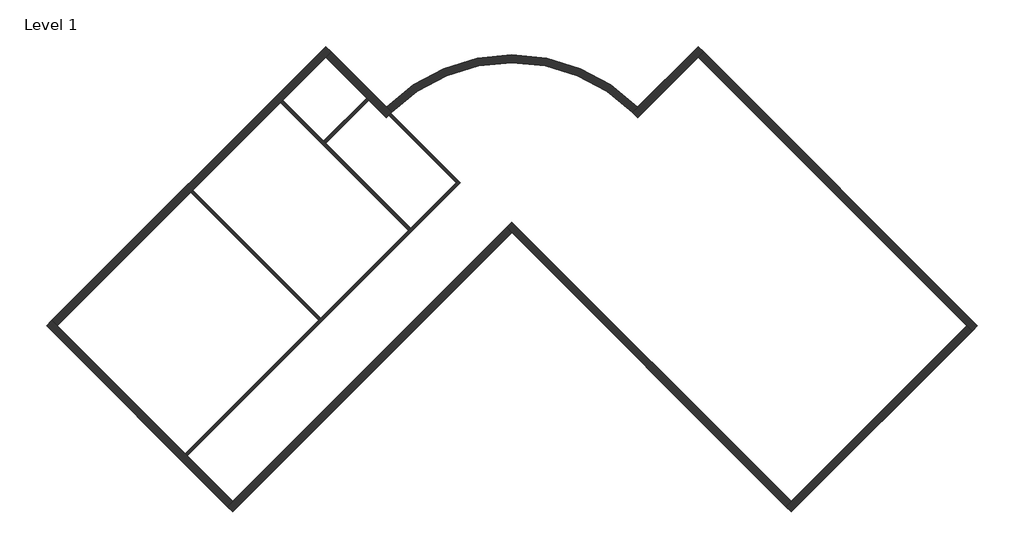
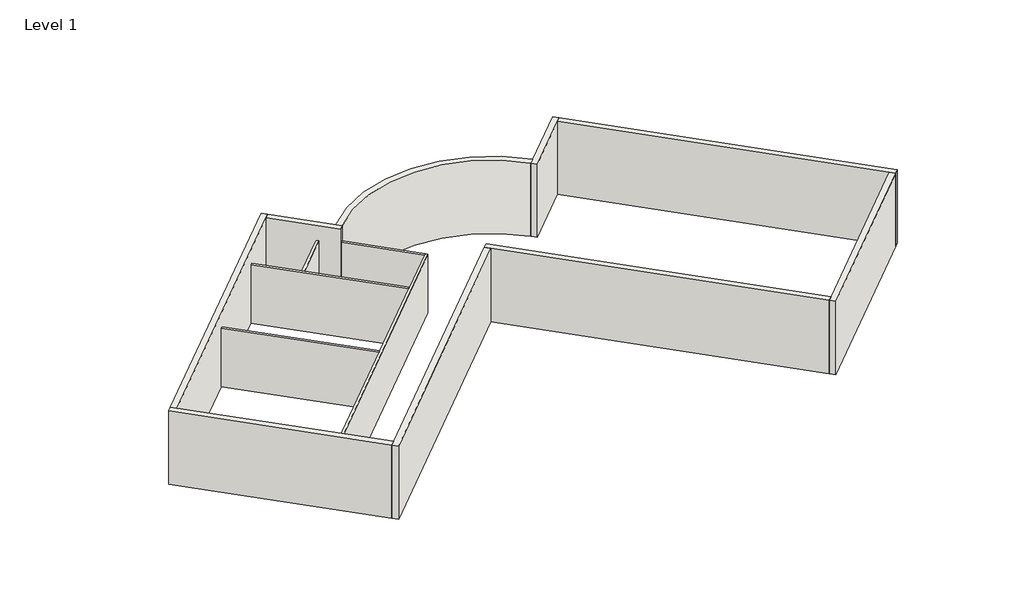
# One storey: 14 walls.
"""IFC4 building model written with IfcOpenShell, lengths in millimetres."""

from ifc_helpers import new_model, si_unit, point, frame, frame_2d, origin, origin_with_axes, place, context, project, spatial, polyline, circle_curve, trimmed, segment, composite_curve, outline, extrude, faceted_brep, element, save
from ifc_brep_helpers import plane_surface, revolved_surface, advanced_brep

model = new_model("IFC4")

# Units and contexts
model_context = context("Model", 3, world=origin())
ifc_project = project(units=[si_unit("LENGTHUNIT", "METRE", prefix="MILLI")], contexts=[model_context])

# Site, building, storey
site = spatial("IfcSite", under=ifc_project)
building = spatial("IfcBuilding", under=site)
storey = spatial("IfcBuildingStorey", under=building, Name="Level 1", Elevation=0.0)

# Walls
placement = place(None, origin())
element("IfcWall", 1, ObjectType="Exterior - Brick on Mtl. Stud", at=placement, inside=storey, context=model_context, shape_type="AdvancedBrep", body=[
    advanced_brep(
    [(4212.7441701, 7313.6674352, 0.0), (7019.8001803, 10120.7234455, 0.0), (7267.2875537, 10368.2108189, 0.0), (7267.2875537, 10368.2108189, 4572.0), (7019.8001803, 10120.7234455, 4572.0), (4212.7441701, 7313.6674352, 4572.0), (3970.7557398, 7566.6537518, 0.0), (3970.7557398, 7566.6537518, 4572.0), (4218.2431133, 7814.1411252, 4572.0), (7019.8001803, 10615.6981923, 4572.0), (7019.8001803, 10615.6981923, 0.0), (4218.2431133, 7814.1411252, 0.0)],
    [
        (0, 1),
        (1, 2),
        (2, 3),
        (3, 4),
        (4, 5),
        (5, 0),
        (6, 7),
        (7, 8),
        (8, 9),
        (9, 10),
        (10, 11),
        (11, 6),
        (0, 6, circle_curve(frame((-1601.2456959, 1994.6523161, 0.0), z_axis=(0.0, 0.0, 1.0), x_axis=(1.0, 0.0, 0.0)), 7880.0)),
        (10, 2),
        (3, 9),
        (7, 5, circle_curve(frame((-1601.2456959, 1994.6523161, 4572.0), z_axis=(0.0, 0.0, -1.0), x_axis=(1.0, 0.0, 0.0)), 7880.0)),
    ],
    [
        plane_surface(frame((4250.0629184, 7350.9861836, 0.0), z_axis=(0.7071067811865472, -0.7071067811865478, 0.0), x_axis=(0.7071067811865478, 0.7071067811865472, 0.0))),
        plane_surface(frame((4002.575545, 7598.473557, 0.0), z_axis=(-0.7071067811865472, 0.7071067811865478, 0.0), x_axis=(-0.7071067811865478, -0.7071067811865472, 0.0))),
        plane_surface(frame((4340.6424361, 7441.5657013, 0.0), z_axis=(0.0, 0.0, -1.0), x_axis=(-0.7071067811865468, 0.7071067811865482, 0.0))),
        plane_surface(frame((7143.543867, 10244.4671322, 4572.0), z_axis=(0.0, 0.0, 1.0), x_axis=(-0.707106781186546, 0.7071067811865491, 0.0))),
        plane_surface(frame((7019.8001803, 10615.6981923, 0.0), z_axis=(0.7071067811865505, 0.7071067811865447, 0.0), x_axis=(-0.7071067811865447, 0.7071067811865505, 0.0))),
        revolved_surface(polyline([(6278.7543041, 1994.6523161, 0.0), (6278.7543041, 1994.6523161, 4572.0)]), (-1601.2456959, 1994.6523161, 0.0), (0.0, 0.0, -1.0)),
    ],
    [
        (0, [[1, 2, 3, 4, 5, 6]]),
        (1, [[7, 8, 9, 10, 11, 12]]),
        (2, [[-2, -1, 13, -12, -11, 14]]),
        (3, [[-5, -4, 15, -9, -8, 16]]),
        (4, [[-3, -14, -10, -15]]),
        (5, [[-6, -16, -7, -13]]),
    ],
),
])
element("IfcWall", 2, ObjectType="Exterior - Brick on Mtl. Stud", at=placement, inside=storey, context=model_context, shape_type="Brep", body=[
    faceted_brep([(7019.8001803, 10120.7234455, 0.0), (19456.3942478, -2315.870622, 0.0), (19703.8816212, -2563.3579955, 0.0), (19703.8816212, -2563.3579955, 4572.0), (19456.3942478, -2315.870622, 4572.0), (7019.8001803, 10120.7234455, 4572.0), (7267.2875537, 10368.2108189, 0.0), (7267.2875537, 10368.2108189, 4572.0), (19951.3689947, -2315.870622, 4572.0), (19951.3689947, -2315.870622, 0.0)], [[[0, 1, 2, 3, 4, 5]], [[6, 7, 8, 9]], [[2, 1, 0, 6, 9]], [[5, 4, 3, 8, 7]], [[0, 5, 7, 6]], [[3, 2, 9, 8]]]),
])
element("IfcWall", 3, ObjectType="Exterior - Brick on Mtl. Stud", at=placement, inside=storey, context=model_context, shape_type="Brep", body=[
    faceted_brep([(19456.3942478, -2315.870622, 0.0), (11330.3231184, -10441.9417514, 0.0), (11082.835745, -10689.4291248, 0.0), (11082.835745, -10689.4291248, 4572.0), (11330.3231184, -10441.9417514, 4572.0), (19456.3942478, -2315.870622, 4572.0), (19703.8816212, -2563.3579955, 0.0), (19703.8816212, -2563.3579955, 4572.0), (11330.3231184, -10936.9164983, 4572.0), (11330.3231184, -10936.9164983, 0.0)], [[[0, 1, 2, 3, 4, 5]], [[6, 7, 8, 9]], [[2, 1, 0, 6, 9]], [[5, 4, 3, 8, 7]], [[0, 5, 7, 6]], [[3, 2, 9, 8]]]),
])
element("IfcWall", 4, ObjectType="Exterior - Brick on Mtl. Stud", at=placement, inside=storey, context=model_context, shape_type="Brep", body=[
    faceted_brep([(11330.3231184, -10441.9417514, 0.0), (-1601.2456959, 2489.6270629, 0.0), (-1601.2456959, 2489.6270629, 4572.0), (11330.3231184, -10441.9417514, 4572.0), (11082.835745, -10689.4291248, 0.0), (11082.835745, -10689.4291248, 4572.0), (-1601.2456959, 1994.6523161, 4572.0), (-1848.7330693, 2242.1396895, 4572.0), (-1848.7330693, 2242.1396895, 0.0), (-1601.2456959, 1994.6523161, 0.0)], [[[0, 1, 2, 3]], [[4, 5, 6, 7, 8, 9]], [[1, 0, 4, 9, 8]], [[3, 2, 7, 6, 5]], [[0, 3, 5, 4]], [[2, 1, 8, 7]]]),
])
element("IfcWall", 5, ObjectType="Exterior - Brick on Mtl. Stud", at=placement, inside=storey, context=model_context, shape_type="Brep", body=[
    faceted_brep([(-1848.7330693, 2242.1396895, 0.0), (-14532.8145102, -10441.9417514, 0.0), (-14780.3018837, -10689.4291248, 0.0), (-14780.3018837, -10689.4291248, 4572.0), (-14532.8145102, -10441.9417514, 4572.0), (-1848.7330693, 2242.1396895, 4572.0), (-1601.2456959, 1994.6523161, 0.0), (-1601.2456959, 1994.6523161, 4572.0), (-14532.8145102, -10936.9164983, 4572.0), (-14532.8145102, -10936.9164983, 0.0)], [[[0, 1, 2, 3, 4, 5]], [[6, 7, 8, 9]], [[2, 1, 0, 6, 9]], [[5, 4, 3, 8, 7]], [[0, 5, 7, 6]], [[3, 2, 9, 8]]]),
])
element("IfcWall", 6, ObjectType="Exterior - Brick on Mtl. Stud", at=placement, inside=storey, context=model_context, shape_type="Brep", body=[
    faceted_brep([(-14532.8145102, -10441.9417514, 0.0), (-16639.1088347, -8335.647427, 0.0), (-16737.0431239, -8237.7131378, 0.0), (-22658.8856396, -2315.870622, 0.0), (-22906.3730131, -2068.3832486, 0.0), (-22906.3730131, -2068.3832486, 4572.0), (-22658.8856396, -2315.870622, 4572.0), (-14532.8145102, -10441.9417514, 4572.0), (-14780.3018837, -10689.4291248, 0.0), (-14780.3018837, -10689.4291248, 4572.0), (-23153.8603865, -2315.870622, 4572.0), (-23153.8603865, -2315.870622, 0.0)], [[[0, 1, 2, 3, 4, 5, 6, 7]], [[8, 9, 10, 11]], [[4, 3, 2, 1, 0, 8, 11]], [[7, 6, 5, 10, 9]], [[0, 7, 9, 8]], [[5, 4, 11, 10]]]),
])
element("IfcWall", 7, ObjectType="Exterior - Brick on Mtl. Stud", at=placement, inside=storey, context=model_context, shape_type="Brep", body=[
    faceted_brep([(-22658.8856396, -2315.870622, 0.0), (-16473.6458479, 3869.3691697, 0.0), (-16375.7115587, 3967.3034589, 0.0), (-12319.9238385, 8023.0911791, 0.0), (-12221.9895493, 8121.0254683, 0.0), (-10222.2915721, 10120.7234455, 0.0), (-9974.8041987, 10368.2108189, 0.0), (-9974.8041987, 10368.2108189, 4572.0), (-10222.2915721, 10120.7234455, 4572.0), (-22658.8856396, -2315.870622, 4572.0), (-22906.3730131, -2068.3832486, 0.0), (-22906.3730131, -2068.3832486, 4572.0), (-10222.2915721, 10615.6981923, 4572.0), (-10222.2915721, 10615.6981923, 0.0)], [[[0, 1, 2, 3, 4, 5, 6, 7, 8, 9]], [[10, 11, 12, 13]], [[6, 5, 4, 3, 2, 1, 0, 10, 13]], [[9, 8, 7, 12, 11]], [[0, 9, 11, 10]], [[7, 6, 13, 12]]]),
])
element("IfcWall", 8, ObjectType="Exterior - Brick on Mtl. Stud", at=placement, inside=storey, context=model_context, shape_type="AdvancedBrep", body=[
    advanced_brep(
    [(-10222.2915721, 10120.7234455, 0.0), (-8331.6648159, 8230.0966893, 0.0), (-8233.7305267, 8132.1624001, 0.0), (-7415.2355619, 7313.6674352, 0.0), (-7415.2355619, 7313.6674352, 4572.0), (-10222.2915721, 10120.7234455, 4572.0), (-9974.8041987, 10368.2108189, 0.0), (-9974.8041987, 10368.2108189, 4572.0), (-7420.7345051, 7814.1411252, 4572.0), (-7173.2471317, 7566.6537518, 4572.0), (-7173.2471317, 7566.6537518, 0.0), (-7420.7345051, 7814.1411252, 0.0), (-7216.0420231, 7523.5275434, 0.0), (-7312.3552714, 7423.9826013, 0.0)],
    [
        (0, 1),
        (1, 2),
        (2, 3),
        (3, 4),
        (4, 5),
        (5, 0),
        (6, 7),
        (7, 8),
        (8, 9),
        (9, 10),
        (10, 11),
        (11, 6),
        (0, 6),
        (10, 12, circle_curve(frame((-1601.2456959, 1994.6523161, 0.0), z_axis=(0.0, 0.0, 1.0), x_axis=(1.0, 0.0, 0.0)), 7880.0)),
        (12, 13, circle_curve(frame((-1601.2456959, 1994.6523161, 0.0), z_axis=(0.0, 0.0, 1.0), x_axis=(1.0, 0.0, 0.0)), 7879.9999413)),
        (13, 3, circle_curve(frame((-1601.2456959, 1994.6523161, 0.0), z_axis=(0.0, 0.0, 1.0), x_axis=(1.0, 0.0, 0.0)), 7879.9999955)),
        (4, 9, circle_curve(frame((-1601.2456959, 1994.6523161, 4572.0), z_axis=(0.0, 0.0, -1.0), x_axis=(1.0, 0.0, 0.0)), 7880.0)),
        (7, 5),
    ],
    [
        plane_surface(frame((-10469.7789456, 10368.2108189, 0.0), z_axis=(-0.7071067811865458, -0.7071067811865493, 0.0), x_axis=(0.7071067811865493, -0.7071067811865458, 0.0))),
        plane_surface(frame((-10222.2915721, 10615.6981923, 0.0), z_axis=(0.7071067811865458, 0.7071067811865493, 0.0), x_axis=(-0.7071067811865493, 0.7071067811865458, 0.0))),
        plane_surface(frame((-10346.0352588, 10244.4671322, 0.0), z_axis=(0.0, 0.0, -1.0000000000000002), x_axis=(0.7071067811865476, 0.7071067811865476, 0.0))),
        plane_surface(frame((-7543.133828, 7441.5657013, 4572.0), z_axis=(0.0, 0.0, 1.0), x_axis=(0.707106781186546, 0.707106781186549, 0.0))),
        plane_surface(frame((-22906.3730131, -2563.3579955, 0.0), z_axis=(-0.7071067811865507, 0.7071067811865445, 0.0), x_axis=(0.7071067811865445, 0.7071067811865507, 0.0))),
        revolved_surface(polyline([(6278.7543041, 1994.6523161, 0.0), (6278.7543041, 1994.6523161, 4572.0)]), (-1601.2456959, 1994.6523161, 0.0), (0.0, 0.0, -1.0)),
    ],
    [
        (0, [[1, 2, 3, 4, 5, 6]]),
        (1, [[7, 8, 9, 10, 11, 12]]),
        (2, [[-3, -2, -1, 13, -12, -11, 14, 15, 16]]),
        (3, [[-5, 17, -9, -8, 18]]),
        (4, [[-6, -18, -7, -13]]),
        (5, [[-16, -15, -14, -10, -17, -4]]),
    ],
),
])
element("IfcWall", 9, ObjectType="Exterior - Brick on Mtl. Stud", at=placement, inside=storey, context=model_context, shape_type="SweptSolid", body=[
    extrude(outline(composite_curve([segment(polyline([(4218.2431133, 7814.1411252), (3970.7557398, 7566.6537518)]), True, "CONTINUOUS"), segment(trimmed(circle_curve(frame_2d((-1601.2456959, 1994.6523161)), 7880.0), [point((3970.7557398, 7566.6537518))], [point((-7173.2471317, 7566.6537518))], True, "CARTESIAN"), True, "CONTINUOUS"), segment(polyline([(-7173.2471317, 7566.6537518), (-7420.7345051, 7814.1411252)]), True, "CONTINUOUS"), segment(trimmed(circle_curve(frame_2d((-1601.2456959, 1994.6523161)), 8230.0), [point((-7420.7345051, 7814.1411252))], [point((4218.2431133, 7814.1411252))], False, "CARTESIAN"), True, "CONTINUOUS")], self_intersect=False)), origin_with_axes(), (0.0, 0.0, 1.0), 4572.0),
])
element("IfcWall", 10, ObjectType="Interior - 138mm Partition (1-hr)", at=placement, inside=storey, context=model_context, shape_type="Brep", body=[
    faceted_brep([(-16639.1088347, -8335.647427, 0.0), (-3997.9841307, 4305.477277, 0.0), (-3997.9841307, 4305.477277, 3658.0), (-16639.1088347, -8335.647427, 3658.0), (-16737.0431239, -8237.7131378, 0.0), (-16737.0431239, -8237.7131378, 3658.0), (-10551.8033322, -2052.473346, 3658.0), (-10453.869043, -1954.5390569, 3658.0), (-6398.0813228, 2101.2486633, 3658.0), (-6300.1470336, 2199.1829525, 3658.0), (-4193.8527091, 4305.477277, 3658.0), (-4095.9184199, 4403.4115662, 3658.0), (-4095.9184199, 4403.4115662, 0.0), (-4193.8527091, 4305.477277, 0.0), (-6300.1470336, 2199.1829525, 0.0), (-6398.0813228, 2101.2486633, 0.0), (-10453.869043, -1954.5390569, 0.0), (-10551.8033322, -2052.473346, 0.0)], [[[0, 1, 2, 3]], [[4, 5, 6, 7, 8, 9, 10, 11, 12, 13, 14, 15, 16, 17]], [[1, 0, 4, 17, 16, 15, 14, 13, 12]], [[3, 2, 11, 10, 9, 8, 7, 6, 5]], [[0, 3, 5, 4]], [[2, 1, 12, 11]]]),
])
element("IfcWall", 11, ObjectType="Interior - 138mm Partition (1-hr)", at=placement, inside=storey, context=model_context, shape_type="SweptSolid", body=[
    extrude(outline(composite_curve([segment(polyline([(-7216.038281, 7523.5314273), (-4095.9184199, 4403.4115662), (-4193.8527091, 4305.477277), (-7312.3566207, 7423.9811885)]), True, "CONTINUOUS"), segment(trimmed(circle_curve(frame_2d((-1601.2456959, 1994.6523161)), 7880.0), [point((-7312.3566207, 7423.9811885))], [point((-7216.038281, 7523.5314273))], False, "CARTESIAN"), True, "CONTINUOUS")], self_intersect=False)), origin_with_axes(), (0.0, 0.0, 1.0), 3658.0),
])
element("IfcWall", 12, ObjectType="Interior - 138mm Partition (1-hr)", at=placement, inside=storey, context=model_context, shape_type="Brep", body=[
    faceted_brep([(-6300.1470336, 2199.1829525, 0.0), (-10233.4285039, 6132.4644229, 0.0), (-10331.3627931, 6230.3987121, 0.0), (-12221.9895493, 8121.0254683, 0.0), (-12221.9895493, 8121.0254683, 3658.0), (-10331.3627931, 6230.3987121, 3658.0), (-10233.4285039, 6132.4644229, 3658.0), (-6300.1470336, 2199.1829525, 3658.0), (-6398.0813228, 2101.2486633, 0.0), (-6398.0813228, 2101.2486633, 3658.0), (-12319.9238385, 8023.0911791, 3658.0), (-12319.9238385, 8023.0911791, 0.0)], [[[0, 1, 2, 3, 4, 5, 6, 7]], [[8, 9, 10, 11]], [[3, 2, 1, 0, 8, 11]], [[7, 6, 5, 4, 10, 9]], [[4, 3, 11, 10]], [[0, 7, 9, 8]]]),
])
element("IfcWall", 13, ObjectType="Interior - 138mm Partition (1-hr)", at=placement, inside=storey, context=model_context, shape_type="SweptSolid", body=[
    extrude(outline(polyline([(-8233.7305267, 8132.1624001), (-10233.4285039, 6132.4644229), (-10331.3627931, 6230.3987121), (-8331.6648159, 8230.0966893), (-8233.7305267, 8132.1624001)])), origin_with_axes(), (0.0, 0.0, 1.0), 3658.0),
])
element("IfcWall", 14, ObjectType="Interior - 138mm Partition (1-hr)", at=placement, inside=storey, context=model_context, shape_type="SweptSolid", body=[
    extrude(outline(polyline([(-16375.7115587, 3967.3034589), (-10453.869043, -1954.5390569), (-10551.8033322, -2052.473346), (-16473.6458479, 3869.3691697), (-16375.7115587, 3967.3034589)])), origin_with_axes(), (0.0, 0.0, 1.0), 3658.0),
])

save(model, "model.ifc")
